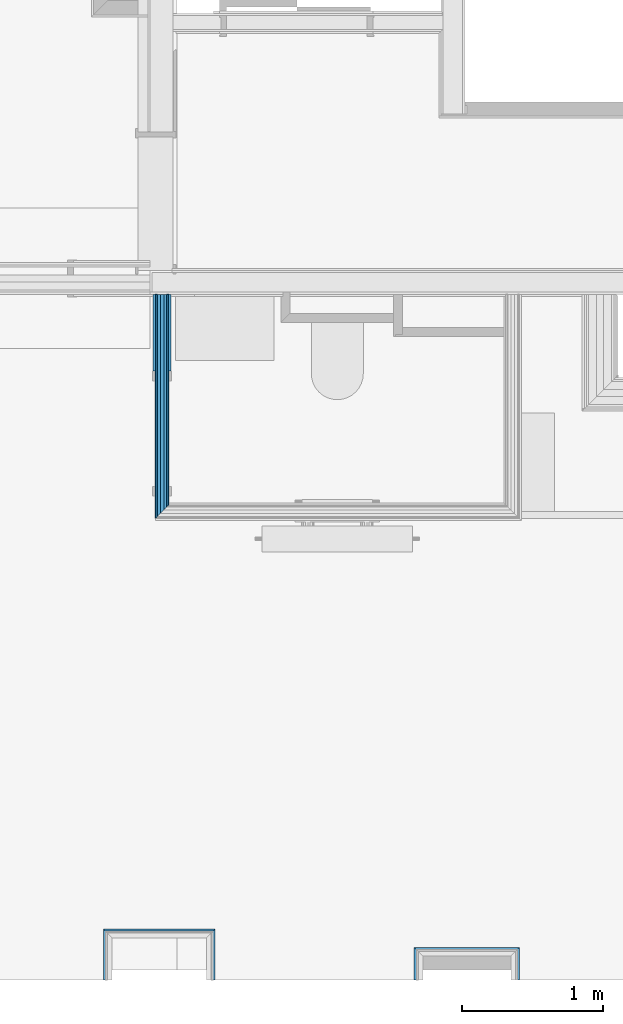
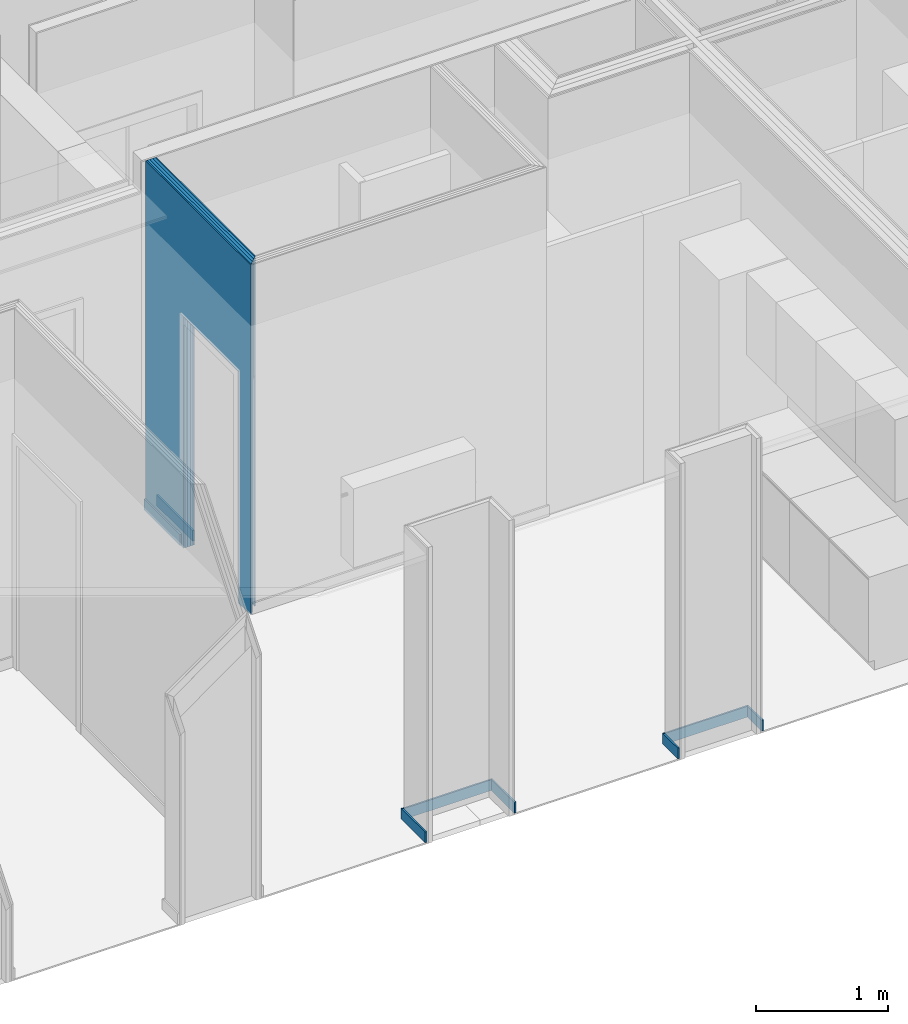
# One storey, part 30 of 65: 13 building element parts, 2 openings, 7 elements without a shape of their own.
"""IFC2X3 building model written with IfcOpenShell, lengths in metres."""

from ifc_helpers import new_model, entity, si_unit, converted_unit, derived_unit, money_unit, direction, frame, frame_2d, origin_with_axes, place, context, subcontext, project, spatial, polyline, rectangle, outline, extrude, material, type_object, element, aggregate, save


model = new_model("IFC2X3")

# Units and contexts
model_context = context("Model", 3, precision=1e-05, world=origin_with_axes(), true_north=direction((0.0, 1.0)))
body_context = subcontext(model_context, "Body", "Model", "MODEL_VIEW", scale=1.0)
ifc_project = project(units=[si_unit("LENGTHUNIT", "METRE"), si_unit("AREAUNIT", "SQUARE_METRE"), si_unit("VOLUMEUNIT", "CUBIC_METRE"), si_unit("ABSORBEDDOSEUNIT", "GRAY"), si_unit("AMOUNTOFSUBSTANCEUNIT", "MOLE"), si_unit("DOSEEQUIVALENTUNIT", "SIEVERT"), si_unit("ELECTRICCAPACITANCEUNIT", "FARAD"), si_unit("ELECTRICCHARGEUNIT", "COULOMB"), si_unit("ELECTRICCONDUCTANCEUNIT", "SIEMENS"), si_unit("ELECTRICCURRENTUNIT", "AMPERE"), si_unit("ELECTRICRESISTANCEUNIT", "OHM"), si_unit("ELECTRICVOLTAGEUNIT", "VOLT"), si_unit("ENERGYUNIT", "JOULE"), si_unit("FORCEUNIT", "NEWTON"), si_unit("FREQUENCYUNIT", "HERTZ"), si_unit("ILLUMINANCEUNIT", "LUX"), si_unit("INDUCTANCEUNIT", "HENRY"), si_unit("LUMINOUSFLUXUNIT", "LUMEN"), si_unit("LUMINOUSINTENSITYUNIT", "CANDELA"), si_unit("MAGNETICFLUXDENSITYUNIT", "TESLA"), si_unit("MAGNETICFLUXUNIT", "WEBER"), si_unit("MASSUNIT", "GRAM"), converted_unit("PLANEANGLEUNIT", "degree", entity("IfcReal", 0.0174532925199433), si_unit("PLANEANGLEUNIT", "RADIAN"), dimensions=[0, 0, 0, 0, 0, 0, 0]), si_unit("POWERUNIT", "WATT"), si_unit("PRESSUREUNIT", "PASCAL"), si_unit("RADIOACTIVITYUNIT", "BECQUEREL"), si_unit("SOLIDANGLEUNIT", "STERADIAN"), si_unit("THERMODYNAMICTEMPERATUREUNIT", "KELVIN"), si_unit("TIMEUNIT", "SECOND"), derived_unit("ACCELERATIONUNIT", [(si_unit("LENGTHUNIT", "METRE"), 1), (si_unit("TIMEUNIT", "SECOND"), -2)]), derived_unit("ANGULARVELOCITYUNIT", [(converted_unit("PLANEANGLEUNIT", "degree", entity("IfcReal", 0.0174532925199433), si_unit("PLANEANGLEUNIT", "RADIAN"), dimensions=[0, 0, 0, 0, 0, 0, 0]), 1), (si_unit("TIMEUNIT", "SECOND"), -1)]), derived_unit("CURVATUREUNIT", [(converted_unit("PLANEANGLEUNIT", "degree", entity("IfcReal", 0.0174532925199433), si_unit("PLANEANGLEUNIT", "RADIAN"), dimensions=[0, 0, 0, 0, 0, 0, 0]), 1), (si_unit("LENGTHUNIT", "METRE"), -1)]), derived_unit("DYNAMICVISCOSITYUNIT", [(si_unit("PRESSUREUNIT", "PASCAL"), 1), (si_unit("TIMEUNIT", "SECOND"), 1)]), derived_unit("HEATFLUXDENSITYUNIT", [(si_unit("POWERUNIT", "WATT"), 1), (si_unit("LENGTHUNIT", "METRE"), -2)]), derived_unit("HEATINGVALUEUNIT", [(si_unit("ENERGYUNIT", "JOULE"), 1), (si_unit("MASSUNIT", "GRAM"), -1)]), derived_unit("INTEGERCOUNTRATEUNIT", [(si_unit("TIMEUNIT", "SECOND"), -1)]), derived_unit("IONCONCENTRATIONUNIT", [(si_unit("MASSUNIT", "GRAM"), 1), (si_unit("VOLUMEUNIT", "CUBIC_METRE"), -1)]), derived_unit("ISOTHERMALMOISTURECAPACITYUNIT", [(si_unit("VOLUMEUNIT", "CUBIC_METRE"), 1), (si_unit("MASSUNIT", "GRAM"), -1)]), derived_unit("KINEMATICVISCOSITYUNIT", [(si_unit("AREAUNIT", "SQUARE_METRE"), 1), (si_unit("TIMEUNIT", "SECOND"), -1)]), derived_unit("LINEARFORCEUNIT", [(si_unit("FORCEUNIT", "NEWTON"), 1), (si_unit("LENGTHUNIT", "METRE"), -1)]), derived_unit("LINEARMOMENTUNIT", [(si_unit("FORCEUNIT", "NEWTON"), 1), (si_unit("LENGTHUNIT", "METRE"), -1)]), derived_unit("LINEARSTIFFNESSUNIT", [(si_unit("FORCEUNIT", "NEWTON"), 1), (si_unit("LENGTHUNIT", "METRE"), -1)]), derived_unit("LINEARVELOCITYUNIT", [(si_unit("LENGTHUNIT", "METRE"), 1), (si_unit("TIMEUNIT", "SECOND"), -1)]), derived_unit("LUMINOUSINTENSITYDISTRIBUTIONUNIT", [(si_unit("LUMINOUSINTENSITYUNIT", "CANDELA"), 1), (si_unit("LUMINOUSFLUXUNIT", "LUMEN"), -1)]), derived_unit("MASSDENSITYUNIT", [(si_unit("MASSUNIT", "GRAM"), 1), (si_unit("VOLUMEUNIT", "CUBIC_METRE"), -1)]), derived_unit("MASSFLOWRATEUNIT", [(si_unit("MASSUNIT", "GRAM"), 1), (si_unit("TIMEUNIT", "SECOND"), -1)]), derived_unit("MASSPERLENGTHUNIT", [(si_unit("MASSUNIT", "GRAM"), 1), (si_unit("LENGTHUNIT", "METRE"), -1)]), derived_unit("MODULUSOFELASTICITYUNIT", [(si_unit("FORCEUNIT", "NEWTON"), 1), (si_unit("AREAUNIT", "SQUARE_METRE"), -1)]), derived_unit("MODULUSOFLINEARSUBGRADEREACTIONUNIT", [(si_unit("FORCEUNIT", "NEWTON"), 1), (si_unit("LENGTHUNIT", "METRE"), -2)]), derived_unit("MODULUSOFROTATIONALSUBGRADEREACTIONUNIT", [(si_unit("FORCEUNIT", "NEWTON"), 1), (si_unit("LENGTHUNIT", "METRE"), 1)]), derived_unit("MODULUSOFSUBGRADEREACTIONUNIT", [(si_unit("FORCEUNIT", "NEWTON"), 1), (si_unit("VOLUMEUNIT", "CUBIC_METRE"), -1)]), derived_unit("MOISTUREDIFFUSIVITYUNIT", [(si_unit("VOLUMEUNIT", "CUBIC_METRE"), 1), (si_unit("TIMEUNIT", "SECOND"), -1)]), derived_unit("MOLECULARWEIGHTUNIT", [(si_unit("MASSUNIT", "GRAM"), 1), (si_unit("AMOUNTOFSUBSTANCEUNIT", "MOLE"), -1)]), derived_unit("PLANARFORCEUNIT", [(si_unit("FORCEUNIT", "NEWTON"), 1), (si_unit("LENGTHUNIT", "METRE"), -2)]), derived_unit("ROTATIONALFREQUENCYUNIT", [(si_unit("TIMEUNIT", "SECOND"), -1)]), derived_unit("ROTATIONALMASSUNIT", [(si_unit("MASSUNIT", "GRAM"), 1), (si_unit("LENGTHUNIT", "METRE"), 2)]), derived_unit("ROTATIONALSTIFFNESSUNIT", [(si_unit("FORCEUNIT", "NEWTON"), 1), (si_unit("LENGTHUNIT", "METRE"), 1), (converted_unit("PLANEANGLEUNIT", "degree", entity("IfcReal", 0.0174532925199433), si_unit("PLANEANGLEUNIT", "RADIAN"), dimensions=[0, 0, 0, 0, 0, 0, 0]), -1)]), derived_unit("SECTIONAREAINTEGRALUNIT", [(si_unit("LENGTHUNIT", "METRE"), 5)]), derived_unit("SECTIONMODULUSUNIT", [(si_unit("LENGTHUNIT", "METRE"), 3)]), derived_unit("SHEARMODULUSUNIT", [(si_unit("FORCEUNIT", "NEWTON"), 1), (si_unit("AREAUNIT", "SQUARE_METRE"), -1)]), derived_unit("SOUNDPOWERUNIT", [(si_unit("ENERGYUNIT", "JOULE"), 1), (si_unit("TIMEUNIT", "SECOND"), -1)]), derived_unit("SPECIFICHEATCAPACITYUNIT", [(si_unit("FORCEUNIT", "NEWTON"), 1), (si_unit("MASSUNIT", "GRAM"), -1), (si_unit("THERMODYNAMICTEMPERATUREUNIT", "KELVIN"), -1)]), derived_unit("TEMPERATUREGRADIENTUNIT", [(si_unit("THERMODYNAMICTEMPERATUREUNIT", "KELVIN"), 1), (si_unit("LENGTHUNIT", "METRE"), -1)]), derived_unit("THERMALADMITTANCEUNIT", [(si_unit("POWERUNIT", "WATT"), 1), (si_unit("AREAUNIT", "SQUARE_METRE"), -1), (si_unit("THERMODYNAMICTEMPERATUREUNIT", "KELVIN"), -1)]), derived_unit("THERMALCONDUCTANCEUNIT", [(si_unit("POWERUNIT", "WATT"), 1), (si_unit("LENGTHUNIT", "METRE"), -1), (si_unit("THERMODYNAMICTEMPERATUREUNIT", "KELVIN"), -1)]), derived_unit("THERMALEXPANSIONCOEFFICIENTUNIT", [(si_unit("THERMODYNAMICTEMPERATUREUNIT", "KELVIN"), -1)]), derived_unit("THERMALRESISTANCEUNIT", [(si_unit("AREAUNIT", "SQUARE_METRE"), 1), (si_unit("POWERUNIT", "WATT"), -1)]), derived_unit("THERMALTRANSMITTANCEUNIT", [(si_unit("POWERUNIT", "WATT"), 1), (si_unit("AREAUNIT", "SQUARE_METRE"), -1), (si_unit("THERMODYNAMICTEMPERATUREUNIT", "KELVIN"), -1)]), derived_unit("TORQUEUNIT", [(si_unit("FORCEUNIT", "NEWTON"), 1), (si_unit("LENGTHUNIT", "METRE"), 1)]), derived_unit("VAPORPERMEABILITYUNIT", [(si_unit("MASSUNIT", "GRAM"), 1), (si_unit("TIMEUNIT", "SECOND"), -1)]), derived_unit("VOLUMETRICFLOWRATEUNIT", [(si_unit("VOLUMEUNIT", "CUBIC_METRE"), 1), (si_unit("TIMEUNIT", "SECOND"), -1)]), derived_unit("WARPINGCONSTANTUNIT", [(si_unit("LENGTHUNIT", "METRE"), 6)]), derived_unit("WARPINGMOMENTUNIT", [(si_unit("FORCEUNIT", "NEWTON"), 1), (si_unit("LENGTHUNIT", "METRE"), 2)]), money_unit("GBP")], contexts=[model_context])

# Site, building, storey
site_placement = place(None, origin_with_axes())
site = spatial("IfcSite", under=ifc_project, at=site_placement, Name="Site", CompositionType="ELEMENT")
building_placement = place(site_placement, origin_with_axes())
building = spatial("IfcBuilding", under=site, at=building_placement, Name="Building01", CompositionType="ELEMENT")
storey_placement = place(building_placement, frame((0.0, 0.0, 8.64), z_axis=(0.0, 0.0, 1.0), x_axis=(1.0, 0.0, 0.0)))
storey = spatial("IfcBuildingStorey", under=building, at=storey_placement, Name="2F", CompositionType="ELEMENT", Elevation=8.64)

# Wall, building element part
wall_type_1 = type_object("IfcWallType", Name="SHE_A-Walls_Type06d_ExternalWallInsulation_48mm", PredefinedType="NOTDEFINED")
wall_1_placement = place(storey_placement, frame((8.79, 0.1, 0.0), z_axis=(0.0, 0.0, 1.0), x_axis=(0.0, 1.0, 0.0)))
wall_1 = element("IfcWall", 1, at=wall_1_placement, inside=storey, type_object=wall_type_1, Name="6D", ObjectType="SHE_A-Walls_Type06d_ExternalWallInsulation_48mm")
ifc_material_1 = material(Name="A_BSUK_Walls_Timber")
building_element_part_1_placement = place(wall_1_placement, origin_with_axes())
building_element_part_1 = element("IfcBuildingElementPart", 2, at=building_element_part_1_placement, material=ifc_material_1, Name="3", context=body_context, shape_type="SweptSolid", body=[
    extrude(outline(polyline([(0.363, 0.063), (0.0, 0.063), (0.0, 0.048), (0.348, 0.048), (0.363, 0.063)])), frame((0.0, 0.0, 0.015), z_axis=(0.0, 0.0, 1.0), x_axis=(1.0, 0.0, 0.0)), (0.0, 0.0, 1.0), 0.1),
])
aggregate(wall_1, [building_element_part_1])

wall_2_placement = place(storey_placement, frame((8.79, 0.4, 0.0), z_axis=(0.0, 0.0, 1.0), x_axis=(1.0, 0.0, 0.0)))
wall_2 = element("IfcWall", 3, at=wall_2_placement, inside=storey, type_object=wall_type_1, Name="6D", ObjectType="SHE_A-Walls_Type06d_ExternalWallInsulation_48mm")
building_element_part_2_placement = place(wall_2_placement, origin_with_axes())
building_element_part_2 = element("IfcBuildingElementPart", 4, at=building_element_part_2_placement, material=ifc_material_1, Name="3", context=body_context, shape_type="SweptSolid", body=[
    extrude(outline(polyline([(0.733, 0.063), (-0.063, 0.063), (-0.048, 0.048), (0.718, 0.048), (0.733, 0.063)])), frame((0.0, 0.0, 0.015), z_axis=(0.0, 0.0, 1.0), x_axis=(1.0, 0.0, 0.0)), (0.0, 0.0, 1.0), 0.1),
])
aggregate(wall_2, [building_element_part_2])

wall_3_placement = place(storey_placement, frame((9.46, 0.4, 0.0), z_axis=(0.0, 0.0, 1.0), x_axis=(0.0, -1.0, 0.0)))
wall_3 = element("IfcWall", 5, at=wall_3_placement, inside=storey, type_object=wall_type_1, Name="6D", ObjectType="SHE_A-Walls_Type06d_ExternalWallInsulation_48mm")
building_element_part_3_placement = place(wall_3_placement, origin_with_axes())
building_element_part_3 = element("IfcBuildingElementPart", 6, at=building_element_part_3_placement, material=ifc_material_1, Name="3", context=body_context, shape_type="SweptSolid", body=[
    extrude(outline(polyline([(-0.063, 0.063), (-0.048, 0.048), (0.3, 0.048), (0.3, 0.063), (-0.063, 0.063)])), frame((0.0, 0.0, 0.015), z_axis=(0.0, 0.0, 1.0), x_axis=(1.0, 0.0, 0.0)), (0.0, 0.0, 1.0), 0.1),
])
aggregate(wall_3, [building_element_part_3])

wall_4_placement = place(storey_placement, frame((11.003, 0.1, 0.0), z_axis=(0.0, 0.0, 1.0), x_axis=(0.0, 1.0, 0.0)))
wall_4 = element("IfcWall", 7, at=wall_4_placement, inside=storey, type_object=wall_type_1, Name="6D", ObjectType="SHE_A-Walls_Type06d_ExternalWallInsulation_48mm")
building_element_part_4_placement = place(wall_4_placement, origin_with_axes())
building_element_part_4 = element("IfcBuildingElementPart", 8, at=building_element_part_4_placement, material=ifc_material_1, Name="3", context=body_context, shape_type="SweptSolid", body=[
    extrude(outline(polyline([(0.233, 0.063), (0.0, 0.063), (0.0, 0.048), (0.218, 0.048), (0.233, 0.063)])), frame((0.0, 0.0, 0.015), z_axis=(0.0, 0.0, 1.0), x_axis=(1.0, 0.0, 0.0)), (0.0, 0.0, 1.0), 0.1),
])
aggregate(wall_4, [building_element_part_4])

wall_5_placement = place(storey_placement, frame((11.003, 0.27, 0.0), z_axis=(0.0, 0.0, 1.0), x_axis=(1.0, 0.0, 0.0)))
wall_5 = element("IfcWall", 9, at=wall_5_placement, inside=storey, type_object=wall_type_1, Name="6D", ObjectType="SHE_A-Walls_Type06d_ExternalWallInsulation_48mm")
building_element_part_5_placement = place(wall_5_placement, origin_with_axes())
building_element_part_5 = element("IfcBuildingElementPart", 10, at=building_element_part_5_placement, material=ifc_material_1, Name="3", context=body_context, shape_type="SweptSolid", body=[
    extrude(outline(polyline([(0.687, 0.063), (-0.063, 0.063), (-0.048, 0.048), (0.672, 0.048), (0.687, 0.063)])), frame((0.0, 0.0, 0.015), z_axis=(0.0, 0.0, 1.0), x_axis=(1.0, 0.0, 0.0)), (0.0, 0.0, 1.0), 0.1),
])
aggregate(wall_5, [building_element_part_5])

wall_6_placement = place(storey_placement, frame((11.627, 0.27, 0.0), z_axis=(0.0, 0.0, 1.0), x_axis=(0.0, -1.0, 0.0)))
wall_6 = element("IfcWall", 11, at=wall_6_placement, inside=storey, type_object=wall_type_1, Name="6D", ObjectType="SHE_A-Walls_Type06d_ExternalWallInsulation_48mm")
building_element_part_6_placement = place(wall_6_placement, origin_with_axes())
building_element_part_6 = element("IfcBuildingElementPart", 12, at=building_element_part_6_placement, material=ifc_material_1, Name="3", context=body_context, shape_type="SweptSolid", body=[
    extrude(outline(polyline([(-0.063, 0.063), (-0.048, 0.048), (0.17, 0.048), (0.17, 0.063), (-0.063, 0.063)])), frame((0.0, 0.0, 0.015), z_axis=(0.0, 0.0, 1.0), x_axis=(1.0, 0.0, 0.0)), (0.0, 0.0, 1.0), 0.1),
])
aggregate(wall_6, [building_element_part_6])

# Wall, openings, building element parts
wall_type_2 = type_object("IfcWallType", Name="SHE_A-Walls_Type05a_Partition_95mm_tall", PredefinedType="NOTDEFINED")
wall_7_placement = place(storey_placement, frame((9.132536, 4.98, 0.0), z_axis=(0.0, 0.0, 1.0), x_axis=(0.0, -1.0, 0.0)))
wall_7 = element("IfcWall", 13, at=wall_7_placement, inside=storey, type_object=wall_type_2, Name="5A", ObjectType="SHE_A-Walls_Type05a_Partition_95mm_tall")
opening_1_placement = place(wall_7_placement, frame((0.574219, -0.035, -0.015), z_axis=(0.0, 0.0, 1.0), x_axis=(1.0, 0.0, 0.0)))
element("IfcOpeningElement", 14, at=opening_1_placement, cuts=wall_7, Name="Opening", ObjectType="Recess", context=body_context, shape_type="SweptSolid", body=[
    extrude(rectangle(XDim=0.834, YDim=2.142, at=frame_2d((-0.417, 1.071), x_axis=(1.0, 0.0))), frame((0.0, 0.0, 0.0), z_axis=(0.0, 1.0, 0.0), x_axis=(-1.0, 0.0, 0.0)), (0.0, 0.0, 1.0), 0.095),
])
opening_2_placement = place(wall_7_placement, frame((0.574219, -0.035, 0.0), z_axis=(0.0, 0.0, 1.0), x_axis=(1.0, 0.0, 0.0)))
element("IfcOpeningElement", 15, at=opening_2_placement, cuts=wall_7, Name="Opening", ObjectType="Recess", context=body_context, shape_type="SweptSolid", body=[
    extrude(rectangle(XDim=0.834, YDim=2.142, at=frame_2d((-0.417, 1.071), x_axis=(-1.0, 0.0))), frame((0.0, 0.0, 0.0), z_axis=(0.0, 1.0, 0.0), x_axis=(-1.0, 0.0, 0.0)), (0.0, 0.0, 1.0), 0.095),
    extrude(rectangle(XDim=1.034, YDim=2.142, at=frame_2d((-0.517, 1.071), x_axis=(-1.0, 0.0))), frame((0.0, 0.035, 0.0), z_axis=(0.0, 1.0, 0.0), x_axis=(-1.0, 0.0, 0.0)), (0.0, 0.0, 1.0), 0.025),
    extrude(rectangle(XDim=1.034, YDim=2.142, at=frame_2d((-0.517, 1.071), x_axis=(-1.0, 0.0))), frame((0.0, 0.06, 0.0), z_axis=(0.0, 1.0, 0.0), x_axis=(-1.0, 0.0, 0.0)), (0.0, 0.0, 1.0), 0.023),
])
placement = place(wall_7_placement, origin_with_axes())
building_element_part_7 = element("IfcBuildingElementPart", 16, at=placement, material=ifc_material_1, Name="1", context=body_context, shape_type="SweptSolid", body=[
    extrude(rectangle(XDim=0.015, YDim=0.547219, at=frame_2d((0.27361, -0.0425), x_axis=(0.0, -1.0))), frame((0.0, 0.0, 0.015), z_axis=(0.0, 0.0, 1.0), x_axis=(1.0, 0.0, 0.0)), (0.0, 0.0, 1.0), 0.1),
])
ifc_material_2 = material(Name="A_BSUK_WallInternal_Finishes_Plasterboard")
building_element_part_8 = element("IfcBuildingElementPart", 17, at=placement, material=ifc_material_2, Name="2", context=body_context, shape_type="SweptSolid", body=[
    extrude(outline(polyline([(1.583, -0.023), (0.0, -0.023), (0.0, -0.035), (1.595, -0.035), (1.583, -0.023)])), origin_with_axes(), (0.0, 0.0, 1.0), 3.24),
])
ifc_material_3 = material(Name="Air Cavity")
building_element_part_9 = element("IfcBuildingElementPart", 18, at=placement, material=ifc_material_3, Name="3", context=body_context, shape_type="SweptSolid", body=[
    extrude(outline(polyline([(1.56, 0.0), (0.0, 0.0), (0.0, -0.023), (1.583, -0.023), (1.56, 0.0)])), origin_with_axes(), (0.0, 0.0, 1.0), 3.24),
])
ifc_material_4 = material(Name="A_BSUK_Insulation")
building_element_part_10 = element("IfcBuildingElementPart", 19, at=placement, material=ifc_material_4, Name="4", context=body_context, shape_type="SweptSolid", body=[
    extrude(outline(polyline([(1.535, 0.025), (0.0, 0.025), (0.0, 0.0), (1.56, 0.0), (1.535, 0.025)])), origin_with_axes(), (0.0, 0.0, 1.0), 3.24),
])
building_element_part_11 = element("IfcBuildingElementPart", 20, at=placement, material=ifc_material_3, Name="5", context=body_context, shape_type="SweptSolid", body=[
    extrude(outline(polyline([(1.512, 0.048), (0.0, 0.048), (0.0, 0.025), (1.535, 0.025), (1.512, 0.048)])), origin_with_axes(), (0.0, 0.0, 1.0), 3.24),
])
building_element_part_12 = element("IfcBuildingElementPart", 21, at=placement, material=ifc_material_2, Name="6", context=body_context, shape_type="SweptSolid", body=[
    extrude(outline(polyline([(1.5, 0.06), (0.0, 0.06), (0.0, 0.048), (1.512, 0.048), (1.5, 0.06)])), origin_with_axes(), (0.0, 0.0, 1.0), 3.24),
])
building_element_part_13 = element("IfcBuildingElementPart", 22, at=placement, material=ifc_material_1, Name="7", context=body_context, shape_type="SweptSolid", body=[
    extrude(rectangle(XDim=0.015, YDim=0.547219, at=frame_2d((0.27361, 0.0675), x_axis=(0.0, -1.0))), frame((0.0, 0.0, 0.015), z_axis=(0.0, 0.0, 1.0), x_axis=(1.0, 0.0, 0.0)), (0.0, 0.0, 1.0), 0.1),
])
aggregate(wall_7, [building_element_part_7, building_element_part_8, building_element_part_9, building_element_part_10, building_element_part_11, building_element_part_12, building_element_part_13])

save(model, "model.ifc")
